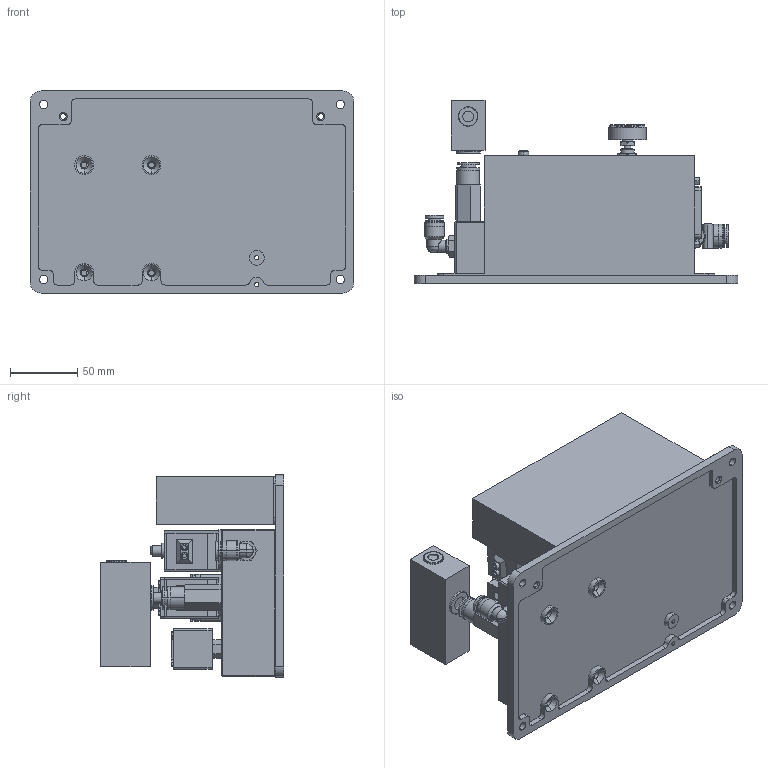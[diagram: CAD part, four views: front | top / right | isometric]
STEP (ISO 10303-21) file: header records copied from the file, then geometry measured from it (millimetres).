
FILE_DESCRIPTION (( 'STEP AP214' ), '1' );
FILE_NAME ('iPCU-SMN.STEP', '2019-12-04T09:30:26', ( '微软用户' ), ( '微软中国' ), 'SwSTEP 2.0', 'SolidWorks 2016', '' );
FILE_SCHEMA (( 'AUTOMOTIVE_DESIGN' ));
Length unit declared in the file: millimetre
Products named in the file (1): iPCU-SMN
Bounding box: 240 x 135.78 x 150 mm (x, y, z)
Volume: 1313071.5 mm3; surface area: 218584.3 mm2
Topology: 3 solids, 25 shells, 1415 faces, 3352 edges, 2143 vertices
Faces by surface type: plane 626, cylinder 485, cone 219, bspline 73, torus 11, sphere 1
Entity records: 59676 total; most frequent: CARTESIAN_POINT 11154, DIRECTION 7051, ORIENTED_EDGE 6674, EDGE_CURVE 3337, AXIS2_PLACEMENT_3D 2705, VERTEX_POINT 2143, VECTOR 1641, LINE 1641
